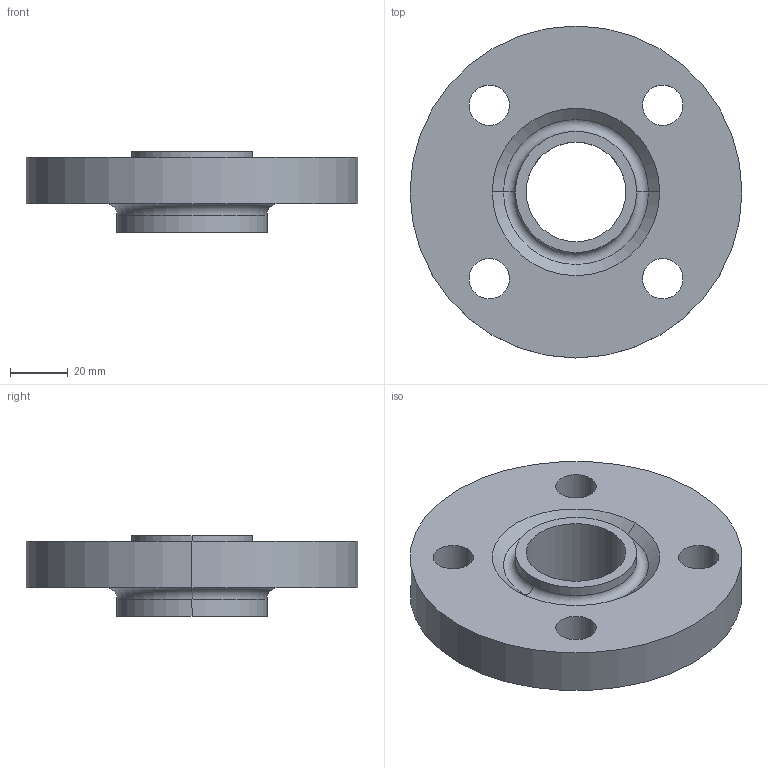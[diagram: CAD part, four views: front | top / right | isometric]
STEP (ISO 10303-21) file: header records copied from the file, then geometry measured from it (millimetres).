
FILE_DESCRIPTION (( 'STEP AP214' ), '1' );
FILE_NAME ('PN40 DN25 Type 12 - Type H Face.STEP', '2018-12-29T20:27:40', ( '' ), ( '' ), 'SwSTEP 2.0', 'SolidWorks 2019', '' );
FILE_SCHEMA (( 'AUTOMOTIVE_DESIGN' ));
Length unit declared in the file: millimetre
Products named in the file (1): PN40 DN25 Type 12 - Type H Face
Bounding box: 115 x 115 x 28 mm (x, y, z)
Volume: 151496.6 mm3; surface area: 31556 mm2
Topology: 1 solids, 1 shells, 26 faces, 60 edges, 38 vertices
Faces by surface type: cylinder 16, torus 4, plane 4, cone 2
Entity records: 812 total; most frequent: DIRECTION 156, CARTESIAN_POINT 125, ORIENTED_EDGE 120, AXIS2_PLACEMENT_3D 69, EDGE_CURVE 60, CIRCLE 42, EDGE_LOOP 38, VERTEX_POINT 38
